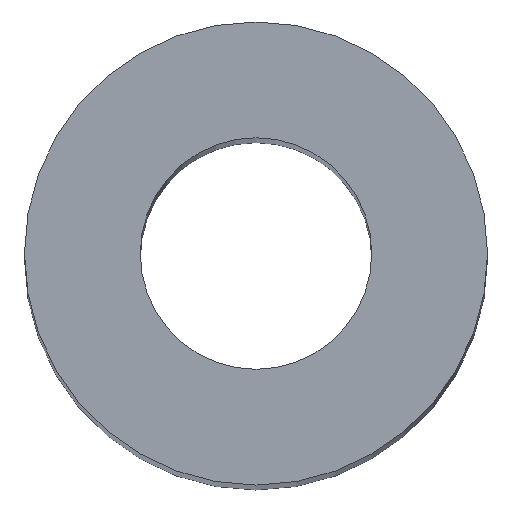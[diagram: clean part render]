
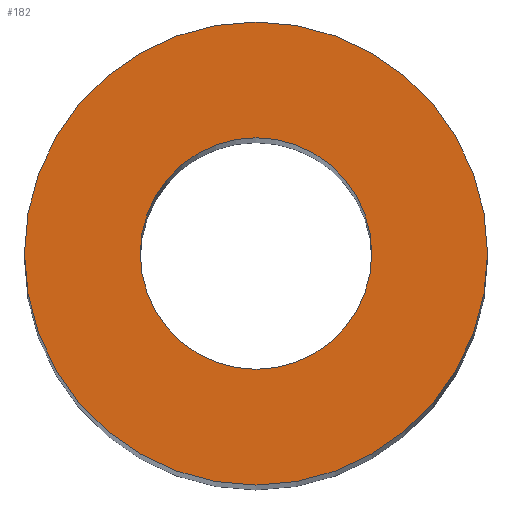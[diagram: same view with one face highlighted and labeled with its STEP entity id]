
A CAD part, top view. The second image highlights one B-rep face of the part: STEP entity #182.
In plain terms, the highlighted planar face has unit normal (0, 0, 1).
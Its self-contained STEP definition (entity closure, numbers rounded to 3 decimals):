
#1 = VERTEX_POINT ( 'NONE', #79 ) ;
#6 = CARTESIAN_POINT ( 'NONE',  ( -12.5, 0., 305. ) ) ;
#8 = ORIENTED_EDGE ( 'NONE', *, *, #125, .T. ) ;
#12 = ORIENTED_EDGE ( 'NONE', *, *, #63, .T. ) ;
#19 = DIRECTION ( 'NONE',  ( 0., 0., 1. ) ) ;
#22 = EDGE_LOOP ( 'NONE', ( #12, #8 ) ) ;
#25 = CARTESIAN_POINT ( 'NONE',  ( 0., 0., 305. ) ) ;
#28 = CIRCLE ( 'NONE', #173, 12.5 ) ;
#32 = DIRECTION ( 'NONE',  ( 1., 0., 0. ) ) ;
#34 = DIRECTION ( 'NONE',  ( 0., 0., 1. ) ) ;
#35 = EDGE_LOOP ( 'NONE', ( #143, #140 ) ) ;
#39 = FACE_BOUND ( 'NONE', #35, .T. ) ;
#47 = DIRECTION ( 'NONE',  ( 1., 0., 0. ) ) ;
#48 = CARTESIAN_POINT ( 'NONE',  ( 25., 0., 305. ) ) ;
#55 = CIRCLE ( 'NONE', #195, 25. ) ;
#63 = EDGE_CURVE ( 'NONE', #1, #96, #55, .T. ) ;
#72 = DIRECTION ( 'NONE',  ( 1., 0., 0. ) ) ;
#79 = CARTESIAN_POINT ( 'NONE',  ( -25., 0., 305. ) ) ;
#96 = VERTEX_POINT ( 'NONE', #48 ) ;
#102 = CARTESIAN_POINT ( 'NONE',  ( 0., 0., 305. ) ) ;
#105 = CIRCLE ( 'NONE', #169, 25. ) ;
#113 = EDGE_CURVE ( 'NONE', #179, #131, #28, .T. ) ;
#118 = CIRCLE ( 'NONE', #156, 12.5 ) ;
#120 = CARTESIAN_POINT ( 'NONE',  ( 0., 0., 305. ) ) ;
#124 = DIRECTION ( 'NONE',  ( 0., 0., 1. ) ) ;
#125 = EDGE_CURVE ( 'NONE', #96, #1, #105, .T. ) ;
#131 = VERTEX_POINT ( 'NONE', #6 ) ;
#133 = DIRECTION ( 'NONE',  ( 1., 0., 0. ) ) ;
#140 = ORIENTED_EDGE ( 'NONE', *, *, #113, .F. ) ;
#143 = ORIENTED_EDGE ( 'NONE', *, *, #181, .F. ) ;
#145 = AXIS2_PLACEMENT_3D ( 'NONE', #120, #124, #32 ) ;
#156 = AXIS2_PLACEMENT_3D ( 'NONE', #102, #34, #194 ) ;
#160 = CARTESIAN_POINT ( 'NONE',  ( 0., 0., 305. ) ) ;
#167 = FACE_OUTER_BOUND ( 'NONE', #22, .T. ) ;
#168 = DIRECTION ( 'NONE',  ( 0., 0., 1. ) ) ;
#169 = AXIS2_PLACEMENT_3D ( 'NONE', #160, #19, #133 ) ;
#173 = AXIS2_PLACEMENT_3D ( 'NONE', #177, #209, #72 ) ;
#177 = CARTESIAN_POINT ( 'NONE',  ( 0., 0., 305. ) ) ;
#179 = VERTEX_POINT ( 'NONE', #202 ) ;
#181 = EDGE_CURVE ( 'NONE', #131, #179, #118, .T. ) ;
#182 = ADVANCED_FACE ( 'NONE', ( #167, #39 ), #214, .T. ) ;
#194 = DIRECTION ( 'NONE',  ( 1., 0., 0. ) ) ;
#195 = AXIS2_PLACEMENT_3D ( 'NONE', #25, #168, #47 ) ;
#202 = CARTESIAN_POINT ( 'NONE',  ( 12.5, 0., 305. ) ) ;
#209 = DIRECTION ( 'NONE',  ( 0., 0., 1. ) ) ;
#214 = PLANE ( 'NONE',  #145 ) ;
